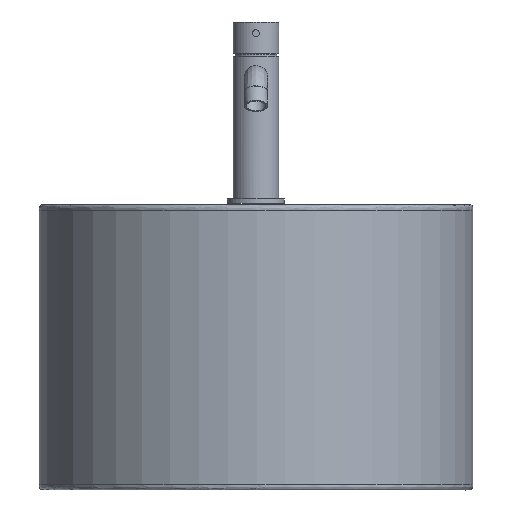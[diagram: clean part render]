
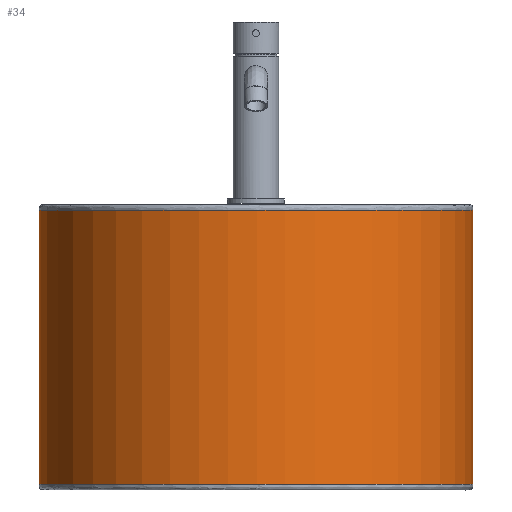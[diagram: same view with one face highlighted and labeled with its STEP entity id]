
A CAD part, front view. The second image highlights one B-rep face of the part: STEP entity #34.
In plain terms, the highlighted cylindrical face has radius 190 mm (diameter 380 mm), a partial arc.
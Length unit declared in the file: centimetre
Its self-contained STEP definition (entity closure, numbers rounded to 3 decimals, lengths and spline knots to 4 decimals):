
#34=ADVANCED_FACE('',(#110),#1085,.T.);
#110=FACE_OUTER_BOUND('',#188,.T.);
#188=EDGE_LOOP('',(#311,#312,#313,#314));
#311=ORIENTED_EDGE('',*,*,#605,.F.);
#312=ORIENTED_EDGE('',*,*,#645,.T.);
#313=ORIENTED_EDGE('',*,*,#601,.T.);
#314=ORIENTED_EDGE('',*,*,#647,.F.);
#601=EDGE_CURVE('',#926,#931,#870,.T.);
#605=EDGE_CURVE('',#943,#941,#874,.T.);
#645=EDGE_CURVE('',#943,#926,#876,.T.);
#647=EDGE_CURVE('',#941,#931,#878,.T.);
#870=(
BOUNDED_CURVE()
B_SPLINE_CURVE(1,(#4702,#4703),.UNSPECIFIED.,.F.,.F.)
B_SPLINE_CURVE_WITH_KNOTS((2,2),(0.5,24.5),
 .UNSPECIFIED.)
CURVE()
GEOMETRIC_REPRESENTATION_ITEM()
RATIONAL_B_SPLINE_CURVE((1.,1.))
REPRESENTATION_ITEM('')
);
#874=(
BOUNDED_CURVE()
B_SPLINE_CURVE(1,(#4710,#4711),.UNSPECIFIED.,.F.,.F.)
B_SPLINE_CURVE_WITH_KNOTS((2,2),(0.5,24.5),
 .UNSPECIFIED.)
CURVE()
GEOMETRIC_REPRESENTATION_ITEM()
RATIONAL_B_SPLINE_CURVE((1.,1.))
REPRESENTATION_ITEM('')
);
#876=(
BOUNDED_CURVE()
B_SPLINE_CURVE(2,(#4896,#4897,#4898,#4899,#4900),.UNSPECIFIED.,.F.,.F.)
B_SPLINE_CURVE_WITH_KNOTS((3,2,3),(0.,29.0595,58.1191),
 .UNSPECIFIED.)
CURVE()
GEOMETRIC_REPRESENTATION_ITEM()
RATIONAL_B_SPLINE_CURVE((1.,0.707,1.,0.707,1.))
REPRESENTATION_ITEM('')
);
#878=(
BOUNDED_CURVE()
B_SPLINE_CURVE(2,(#4906,#4907,#4908,#4909,#4910),.UNSPECIFIED.,.F.,.F.)
B_SPLINE_CURVE_WITH_KNOTS((3,2,3),(0.,29.0595,58.1191),
 .UNSPECIFIED.)
CURVE()
GEOMETRIC_REPRESENTATION_ITEM()
RATIONAL_B_SPLINE_CURVE((1.,0.707,1.,0.707,1.))
REPRESENTATION_ITEM('')
);
#926=VERTEX_POINT('',#4518);
#931=VERTEX_POINT('',#4523);
#941=VERTEX_POINT('',#4533);
#943=VERTEX_POINT('',#4535);
#1085=CYLINDRICAL_SURFACE('',#1191,19.);
#1191=AXIS2_PLACEMENT_3D('',#1572,#1225,$);
#1225=DIRECTION('',(0.,0.,-1.));
#1572=CARTESIAN_POINT('',(192.,-35.5,30.41));
#4518=CARTESIAN_POINT('',(173.,-35.5,42.41));
#4523=CARTESIAN_POINT('',(173.,-35.5,18.41));
#4533=CARTESIAN_POINT('',(211.,-35.5,18.41));
#4535=CARTESIAN_POINT('',(211.,-35.5,42.41));
#4702=CARTESIAN_POINT('',(173.,-35.5,42.41));
#4703=CARTESIAN_POINT('',(173.,-35.5,18.41));
#4710=CARTESIAN_POINT('',(211.,-35.5,42.41));
#4711=CARTESIAN_POINT('',(211.,-35.5,18.41));
#4896=CARTESIAN_POINT('',(211.,-35.5,42.41));
#4897=CARTESIAN_POINT('',(211.,-54.5,42.41));
#4898=CARTESIAN_POINT('',(192.,-54.5,42.41));
#4899=CARTESIAN_POINT('',(173.,-54.5,42.41));
#4900=CARTESIAN_POINT('',(173.,-35.5,42.41));
#4906=CARTESIAN_POINT('',(211.,-35.5,18.41));
#4907=CARTESIAN_POINT('',(211.,-54.5,18.41));
#4908=CARTESIAN_POINT('',(192.,-54.5,18.41));
#4909=CARTESIAN_POINT('',(173.,-54.5,18.41));
#4910=CARTESIAN_POINT('',(173.,-35.5,18.41));
